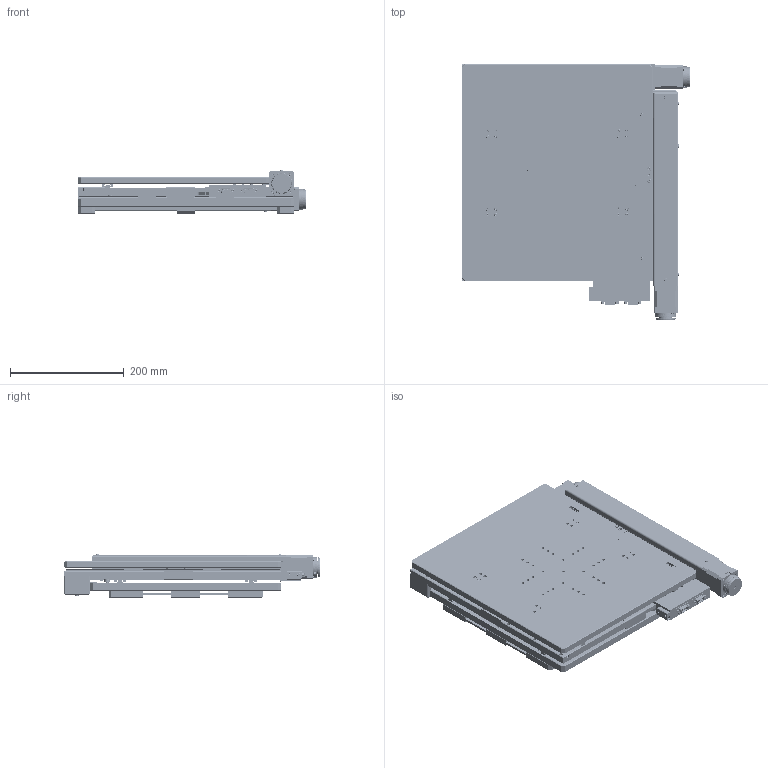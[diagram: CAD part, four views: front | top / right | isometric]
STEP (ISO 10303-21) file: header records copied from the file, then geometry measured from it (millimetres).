
FILE_DESCRIPTION(/* description */ (''),/* implementation_level */ '2;1');
FILE_NAME(/* name */ 'U:\KONSTRUKTORIAI\DOKUMENTACIJA\8\8MT200XY\STEP\8MTF200XY IB.stp',/* time_stamp */ '2020-04-27T09:34:34+03:00',/* author */ ('dsgn32'),/* organization */ (''),/* preprocessor_version */ 'ST-DEVELOPER v15.2',/* originating_system */ 'Autodesk Inventor 2014',/* authorisation */ '');
FILE_SCHEMA (('CONFIG_CONTROL_DESIGN'));
Products named in the file (1): 8MTF200XY IB
Bounding box: 401.2 x 450.85 x 75.65 mm (x, y, z)
Volume: 6203826.4 mm3; surface area: 1169027.2 mm2
Topology: 1 solids, 98 shells, 5325 faces, 13420 edges, 8810 vertices
Faces by surface type: plane 3053, cylinder 1361, bspline 502, cone 256, torus 112, sphere 41
Full cylindrical faces by diameter (mm): 1 x30, 1.567 x34, 2.013 x8, 2.459 x153, 2.5 x29, 2.9 x4, 3 x44, 3.1 x2, 3.242 x25, 3.302 x4, 3.4 x41, 3.5 x92, 4 x38, 4.2 x5, 4.5 x24, 4.917 x29, 5 x13, 5.5 x31, 6 x133, 7 x23, 8 x24, 10 x3, 11.6 x4, 12 x2, 15 x4, 22 x2, 22.5 x2, 23 x3, 32 x2, 34 x2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
Entity records: 285300 total; most frequent: CARTESIAN_POINT 162750, ORIENTED_EDGE 23548, DIRECTION 22288, EDGE_CURVE 11750, VERTEX_POINT 8331, AXIS2_PLACEMENT_3D 7954, EDGE_LOOP 7425, LINE 6380
